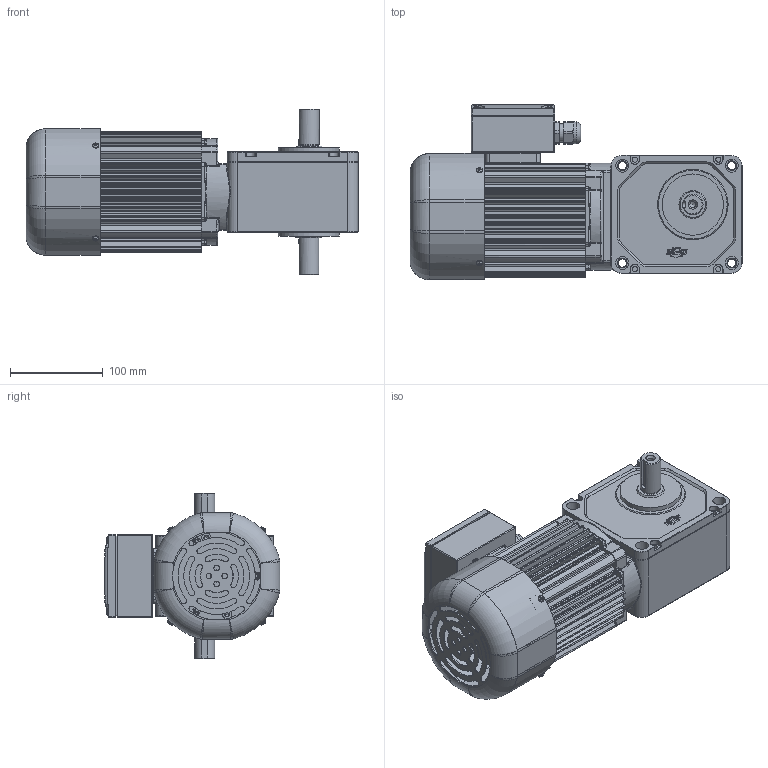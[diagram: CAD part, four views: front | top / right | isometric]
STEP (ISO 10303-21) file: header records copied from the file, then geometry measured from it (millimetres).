
FILE_DESCRIPTION(/* description */ (''),/* implementation_level */ '2;1');
FILE_NAME(/* name */ 'Z:\동력 3D 파일\PCS22B_0.2kW_Brake_3D.stp',/* time_stamp */ '2021-11-09T10:37:14+09:00',/* author */ ('jaebok'),/* organization */ (''),/* preprocessor_version */ 'ST-DEVELOPER v18.1',/* originating_system */ 'Autodesk Inventor 2022',/* authorisation */ '');
FILE_SCHEMA (('AUTOMOTIVE_DESIGN { 1 0 10303 214 3 1 1 }'));
Products named in the file (1): 부품38
Bounding box: 358 x 189.7 x 179 mm (x, y, z)
Volume: 1864346.8 mm3; surface area: 550544.9 mm2
Topology: 2 solids, 27 shells, 2164 faces, 5509 edges, 3475 vertices
Faces by surface type: plane 994, cylinder 817, torus 115, bspline 113, cone 113, sphere 12
Full cylindrical faces by diameter (mm): 1.5 x2, 2 x5, 3 x4, 3.242 x4, 3.25 x1, 3.3 x8, 3.6 x4, 3.8 x3, 4 x20, 4.2 x9, 5 x18, 5.5 x4, 5.8 x2, 5.9 x3, 6 x17, 6.4 x1, 6.5 x6, 6.647 x2, 7 x12, 7.9 x6, 8 x4, 8.5 x1, 8.7 x1, 9 x4, 10 x1, 12.5 x1, 14 x8, 15 x1, 16 x1, 20 x2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
Entity records: 73862 total; most frequent: CARTESIAN_POINT 19136, DIRECTION 11389, ORIENTED_EDGE 10892, EDGE_CURVE 5446, AXIS2_PLACEMENT_3D 4299, VERTEX_POINT 3468, LINE 2791, VECTOR 2791
